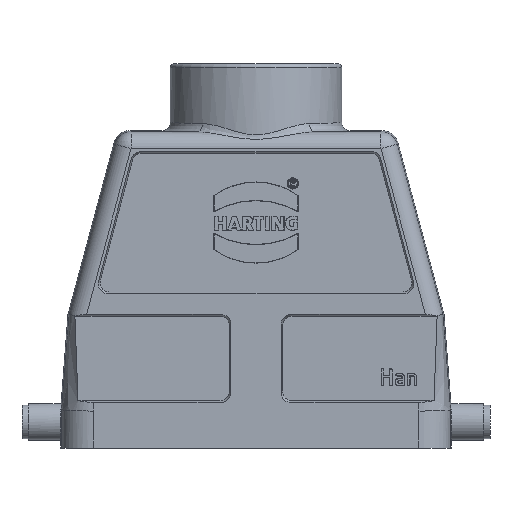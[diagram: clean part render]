
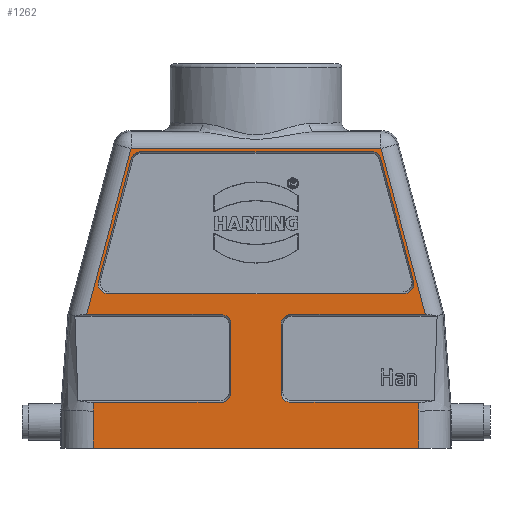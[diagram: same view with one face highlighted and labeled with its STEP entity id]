
A CAD part, front view. The second image highlights one B-rep face of the part: STEP entity #1262.
In plain terms, the highlighted planar face has unit normal (0, -1, 0).
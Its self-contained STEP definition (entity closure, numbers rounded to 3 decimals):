
#801=(
BOUNDED_CURVE()
B_SPLINE_CURVE(3,(#9892,#9893,#9894,#9895,#9896,#9897,#9898,#9899,#9900,
#9901),.UNSPECIFIED.,.F.,.F.)
B_SPLINE_CURVE_WITH_KNOTS((4,3,3,4),(0.,0.688,0.865,
1.),.UNSPECIFIED.)
CURVE()
GEOMETRIC_REPRESENTATION_ITEM()
RATIONAL_B_SPLINE_CURVE((1.,1.,1.,1.,1.,1.,1.,1.,1.,1.))
REPRESENTATION_ITEM('')
);
#802=(
BOUNDED_CURVE()
B_SPLINE_CURVE(3,(#9929,#9930,#9931,#9932,#9933,#9934,#9935,#9936,#9937,
#9938),.UNSPECIFIED.,.F.,.F.)
B_SPLINE_CURVE_WITH_KNOTS((4,3,3,4),(0.,0.135,0.312,
1.),.UNSPECIFIED.)
CURVE()
GEOMETRIC_REPRESENTATION_ITEM()
RATIONAL_B_SPLINE_CURVE((1.,1.,1.,1.,1.,1.,1.,1.,1.,1.))
REPRESENTATION_ITEM('')
);
#962=FACE_BOUND('',#2038,.T.);
#963=FACE_BOUND('',#2039,.T.);
#1051=PLANE('',#7174);
#1262=ADVANCED_FACE('',(#962,#963),#1051,.F.);
#2038=EDGE_LOOP('',(#2912,#2913,#2914,#2915,#2916,#2917,#2918,#2919));
#2039=EDGE_LOOP('',(#2920,#2921,#2922,#2923,#2924,#2925,#2926,#2927,#2928,
#2929,#2930,#2931,#2932,#2933,#2934,#2935,#2936,#2937));
#2534=ELLIPSE('',#7166,2.913,2.5);
#2535=ELLIPSE('',#7167,2.751,2.5);
#2536=ELLIPSE('',#7168,2.751,2.5);
#2537=ELLIPSE('',#7169,2.913,2.5);
#2538=ELLIPSE('',#7170,2.812,2.5);
#2539=ELLIPSE('',#7171,2.812,2.5);
#2540=ELLIPSE('',#7172,2.812,2.5);
#2541=ELLIPSE('',#7173,2.812,2.5);
#2912=ORIENTED_EDGE('',*,*,#5236,.T.);
#2913=ORIENTED_EDGE('',*,*,#5237,.F.);
#2914=ORIENTED_EDGE('',*,*,#5238,.F.);
#2915=ORIENTED_EDGE('',*,*,#5239,.F.);
#2916=ORIENTED_EDGE('',*,*,#5240,.F.);
#2917=ORIENTED_EDGE('',*,*,#5241,.F.);
#2918=ORIENTED_EDGE('',*,*,#5242,.T.);
#2919=ORIENTED_EDGE('',*,*,#5243,.T.);
#2920=ORIENTED_EDGE('',*,*,#5244,.T.);
#2921=ORIENTED_EDGE('',*,*,#5245,.T.);
#2922=ORIENTED_EDGE('',*,*,#5246,.T.);
#2923=ORIENTED_EDGE('',*,*,#5247,.T.);
#2924=ORIENTED_EDGE('',*,*,#5248,.T.);
#2925=ORIENTED_EDGE('',*,*,#5249,.T.);
#2926=ORIENTED_EDGE('',*,*,#5250,.T.);
#2927=ORIENTED_EDGE('',*,*,#5251,.T.);
#2928=ORIENTED_EDGE('',*,*,#5252,.T.);
#2929=ORIENTED_EDGE('',*,*,#5253,.T.);
#2930=ORIENTED_EDGE('',*,*,#5254,.T.);
#2931=ORIENTED_EDGE('',*,*,#5255,.T.);
#2932=ORIENTED_EDGE('',*,*,#5256,.T.);
#2933=ORIENTED_EDGE('',*,*,#5257,.T.);
#2934=ORIENTED_EDGE('',*,*,#5258,.T.);
#2935=ORIENTED_EDGE('',*,*,#5259,.T.);
#2936=ORIENTED_EDGE('',*,*,#5260,.T.);
#2937=ORIENTED_EDGE('',*,*,#5261,.T.);
#4637=VERTEX_POINT('',#9870);
#4638=VERTEX_POINT('',#9871);
#4639=VERTEX_POINT('',#9873);
#4640=VERTEX_POINT('',#9875);
#4641=VERTEX_POINT('',#9877);
#4642=VERTEX_POINT('',#9879);
#4643=VERTEX_POINT('',#9881);
#4644=VERTEX_POINT('',#9883);
#4645=VERTEX_POINT('',#9886);
#4646=VERTEX_POINT('',#9887);
#4647=VERTEX_POINT('',#9889);
#4648=VERTEX_POINT('',#9891);
#4649=VERTEX_POINT('',#9902);
#4650=VERTEX_POINT('',#9904);
#4651=VERTEX_POINT('',#9906);
#4652=VERTEX_POINT('',#9908);
#4653=VERTEX_POINT('',#9910);
#4654=VERTEX_POINT('',#9912);
#4655=VERTEX_POINT('',#9914);
#4656=VERTEX_POINT('',#9916);
#4657=VERTEX_POINT('',#9918);
#4658=VERTEX_POINT('',#9920);
#4659=VERTEX_POINT('',#9922);
#4660=VERTEX_POINT('',#9924);
#4661=VERTEX_POINT('',#9926);
#4662=VERTEX_POINT('',#9928);
#5236=EDGE_CURVE('',#4637,#4638,#2534,.T.);
#5237=EDGE_CURVE('',#4639,#4638,#6024,.T.);
#5238=EDGE_CURVE('',#4640,#4639,#2535,.T.);
#5239=EDGE_CURVE('',#4641,#4640,#6025,.T.);
#5240=EDGE_CURVE('',#4642,#4641,#2536,.T.);
#5241=EDGE_CURVE('',#4643,#4642,#6026,.T.);
#5242=EDGE_CURVE('',#4643,#4644,#2537,.T.);
#5243=EDGE_CURVE('',#4644,#4637,#6027,.T.);
#5244=EDGE_CURVE('',#4645,#4646,#6028,.T.);
#5245=EDGE_CURVE('',#4646,#4647,#6029,.T.);
#5246=EDGE_CURVE('',#4647,#4648,#6030,.T.);
#5247=EDGE_CURVE('',#4648,#4649,#801,.T.);
#5248=EDGE_CURVE('',#4649,#4650,#6031,.T.);
#5249=EDGE_CURVE('',#4650,#4651,#2538,.T.);
#5250=EDGE_CURVE('',#4651,#4652,#6032,.T.);
#5251=EDGE_CURVE('',#4652,#4653,#2539,.T.);
#5252=EDGE_CURVE('',#4653,#4654,#6033,.T.);
#5253=EDGE_CURVE('',#4654,#4655,#6034,.T.);
#5254=EDGE_CURVE('',#4655,#4656,#6035,.T.);
#5255=EDGE_CURVE('',#4656,#4657,#6036,.T.);
#5256=EDGE_CURVE('',#4657,#4658,#6037,.T.);
#5257=EDGE_CURVE('',#4658,#4659,#2540,.T.);
#5258=EDGE_CURVE('',#4659,#4660,#6038,.T.);
#5259=EDGE_CURVE('',#4660,#4661,#2541,.T.);
#5260=EDGE_CURVE('',#4661,#4662,#6039,.T.);
#5261=EDGE_CURVE('',#4662,#4645,#802,.T.);
#6024=LINE('',#9872,#6576);
#6025=LINE('',#9876,#6577);
#6026=LINE('',#9880,#6578);
#6027=LINE('',#9884,#6579);
#6028=LINE('',#9885,#6580);
#6029=LINE('',#9888,#6581);
#6030=LINE('',#9890,#6582);
#6031=LINE('',#9903,#6583);
#6032=LINE('',#9907,#6584);
#6033=LINE('',#9911,#6585);
#6034=LINE('',#9913,#6586);
#6035=LINE('',#9915,#6587);
#6036=LINE('',#9917,#6588);
#6037=LINE('',#9919,#6589);
#6038=LINE('',#9923,#6590);
#6039=LINE('',#9927,#6591);
#6576=VECTOR('',#7965,1.);
#6577=VECTOR('',#7968,1.);
#6578=VECTOR('',#7971,1.);
#6579=VECTOR('',#7974,1.);
#6580=VECTOR('',#7975,1.);
#6581=VECTOR('',#7976,1.);
#6582=VECTOR('',#7977,1.);
#6583=VECTOR('',#7978,1.);
#6584=VECTOR('',#7981,1.);
#6585=VECTOR('',#7984,1.);
#6586=VECTOR('',#7985,1.);
#6587=VECTOR('',#7986,1.);
#6588=VECTOR('',#7987,1.);
#6589=VECTOR('',#7988,1.);
#6590=VECTOR('',#7991,1.);
#6591=VECTOR('',#7994,1.);
#7166=AXIS2_PLACEMENT_3D('',#9869,#7963,#7964);
#7167=AXIS2_PLACEMENT_3D('',#9874,#7966,#7967);
#7168=AXIS2_PLACEMENT_3D('',#9878,#7969,#7970);
#7169=AXIS2_PLACEMENT_3D('',#9882,#7972,#7973);
#7170=AXIS2_PLACEMENT_3D('',#9905,#7979,#7980);
#7171=AXIS2_PLACEMENT_3D('',#9909,#7982,#7983);
#7172=AXIS2_PLACEMENT_3D('',#9921,#7989,#7990);
#7173=AXIS2_PLACEMENT_3D('',#9925,#7992,#7993);
#7174=AXIS2_PLACEMENT_3D('',#9939,#7995,#7996);
#7963=DIRECTION('',(0.,1.,0.));
#7964=DIRECTION('',(-0.793,0.,-0.609));
#7965=DIRECTION('',(-0.259,0.,-0.966));
#7966=DIRECTION('',(0.,-1.,0.));
#7967=DIRECTION('',(-0.609,0.,0.793));
#7968=DIRECTION('',(-1.,0.,0.));
#7969=DIRECTION('',(0.,-1.,0.));
#7970=DIRECTION('',(0.609,0.,0.793));
#7971=DIRECTION('',(-0.259,0.,0.966));
#7972=DIRECTION('',(0.,1.,0.));
#7973=DIRECTION('',(0.793,0.,-0.609));
#7974=DIRECTION('',(-1.,0.,0.));
#7975=DIRECTION('',(0.,0.,-1.));
#7976=DIRECTION('',(1.,0.,0.));
#7977=DIRECTION('',(0.,0.,1.));
#7978=DIRECTION('',(-1.,0.,0.));
#7979=DIRECTION('',(0.,1.,0.));
#7980=DIRECTION('',(-0.707,0.,-0.707));
#7981=DIRECTION('',(0.,0.,1.));
#7982=DIRECTION('',(0.,1.,0.));
#7983=DIRECTION('',(-0.707,0.,0.707));
#7984=DIRECTION('',(1.,0.,0.));
#7985=DIRECTION('',(-0.259,0.,0.966));
#7986=DIRECTION('',(-1.,0.,0.));
#7987=DIRECTION('',(-0.259,0.,-0.966));
#7988=DIRECTION('',(1.,0.,0.));
#7989=DIRECTION('',(0.,1.,0.));
#7990=DIRECTION('',(0.707,0.,0.707));
#7991=DIRECTION('',(0.,0.,-1.));
#7992=DIRECTION('',(0.,1.,0.));
#7993=DIRECTION('',(0.707,0.,-0.707));
#7994=DIRECTION('',(-1.,0.,0.));
#7995=DIRECTION('',(0.,1.,0.));
#7996=DIRECTION('',(0.,0.,1.));
#9869=CARTESIAN_POINT('',(-35.017,-21.5,30.51));
#9870=CARTESIAN_POINT('',(-35.422,-21.5,27.85));
#9871=CARTESIAN_POINT('',(-37.691,-21.5,30.807));
#9872=CARTESIAN_POINT('',(-36.194,-21.5,36.395));
#9873=CARTESIAN_POINT('',(-29.84,-21.5,60.109));
#9874=CARTESIAN_POINT('',(-27.332,-21.5,59.19));
#9875=CARTESIAN_POINT('',(-27.571,-21.5,61.85));
#9876=CARTESIAN_POINT('',(0.,-21.5,61.85));
#9877=CARTESIAN_POINT('',(27.571,-21.5,61.85));
#9878=CARTESIAN_POINT('',(27.332,-21.5,59.19));
#9879=CARTESIAN_POINT('',(29.84,-21.5,60.109));
#9880=CARTESIAN_POINT('',(36.194,-21.5,36.395));
#9881=CARTESIAN_POINT('',(37.691,-21.5,30.807));
#9882=CARTESIAN_POINT('',(35.017,-21.5,30.51));
#9883=CARTESIAN_POINT('',(35.422,-21.5,27.85));
#9884=CARTESIAN_POINT('',(0.,-21.5,27.85));
#9885=CARTESIAN_POINT('',(-39.004,-21.5,-9.15));
#9886=CARTESIAN_POINT('',(-39.004,-21.5,-0.296));
#9887=CARTESIAN_POINT('',(-39.004,-21.5,-9.15));
#9888=CARTESIAN_POINT('',(46.75,-21.5,-9.15));
#9889=CARTESIAN_POINT('',(39.004,-21.5,-9.15));
#9890=CARTESIAN_POINT('',(39.004,-21.5,-0.014));
#9891=CARTESIAN_POINT('',(39.004,-21.5,-0.296));
#9892=CARTESIAN_POINT('',(45.721,-21.5,-87.996));
#9893=CARTESIAN_POINT('',(43.484,-21.5,-58.782));
#9894=CARTESIAN_POINT('',(41.246,-21.5,-29.568));
#9895=CARTESIAN_POINT('',(39.009,-21.5,-0.354));
#9896=CARTESIAN_POINT('',(38.433,-21.5,7.172));
#9897=CARTESIAN_POINT('',(39.571,-21.5,14.829));
#9898=CARTESIAN_POINT('',(40.709,-21.5,22.486));
#9899=CARTESIAN_POINT('',(41.576,-21.5,28.32));
#9900=CARTESIAN_POINT('',(42.444,-21.5,34.155));
#9901=CARTESIAN_POINT('',(43.311,-21.5,39.989));
#9902=CARTESIAN_POINT('',(38.888,-21.5,1.85));
#9903=CARTESIAN_POINT('',(0.,-21.5,1.85));
#9904=CARTESIAN_POINT('',(8.349,-21.5,1.85));
#9905=CARTESIAN_POINT('',(8.66,-21.5,4.51));
#9906=CARTESIAN_POINT('',(6.,-21.5,4.199));
#9907=CARTESIAN_POINT('',(6.,-21.5,0.));
#9908=CARTESIAN_POINT('',(6.,-21.5,20.501));
#9909=CARTESIAN_POINT('',(8.66,-21.5,20.19));
#9910=CARTESIAN_POINT('',(8.349,-21.5,22.85));
#9911=CARTESIAN_POINT('',(0.,-21.5,22.85));
#9912=CARTESIAN_POINT('',(40.542,-21.5,22.85));
#9913=CARTESIAN_POINT('',(29.125,-21.5,65.457));
#9914=CARTESIAN_POINT('',(29.906,-21.5,62.544));
#9915=CARTESIAN_POINT('',(-32.922,-21.5,62.544));
#9916=CARTESIAN_POINT('',(-29.906,-21.5,62.544));
#9917=CARTESIAN_POINT('',(-38.34,-21.5,31.07));
#9918=CARTESIAN_POINT('',(-40.542,-21.5,22.85));
#9919=CARTESIAN_POINT('',(0.,-21.5,22.85));
#9920=CARTESIAN_POINT('',(-8.349,-21.5,22.85));
#9921=CARTESIAN_POINT('',(-8.66,-21.5,20.19));
#9922=CARTESIAN_POINT('',(-6.,-21.5,20.501));
#9923=CARTESIAN_POINT('',(-6.,-21.5,0.));
#9924=CARTESIAN_POINT('',(-6.,-21.5,4.199));
#9925=CARTESIAN_POINT('',(-8.66,-21.5,4.51));
#9926=CARTESIAN_POINT('',(-8.349,-21.5,1.85));
#9927=CARTESIAN_POINT('',(0.,-21.5,1.85));
#9928=CARTESIAN_POINT('',(-38.888,-21.5,1.85));
#9929=CARTESIAN_POINT('',(-43.311,-21.5,39.989));
#9930=CARTESIAN_POINT('',(-42.444,-21.5,34.155));
#9931=CARTESIAN_POINT('',(-41.576,-21.5,28.32));
#9932=CARTESIAN_POINT('',(-40.709,-21.5,22.486));
#9933=CARTESIAN_POINT('',(-39.571,-21.5,14.829));
#9934=CARTESIAN_POINT('',(-38.433,-21.5,7.172));
#9935=CARTESIAN_POINT('',(-39.009,-21.5,-0.354));
#9936=CARTESIAN_POINT('',(-41.246,-21.5,-29.568));
#9937=CARTESIAN_POINT('',(-43.484,-21.5,-58.782));
#9938=CARTESIAN_POINT('',(-45.721,-21.5,-87.996));
#9939=CARTESIAN_POINT('',(0.,-21.5,0.));
